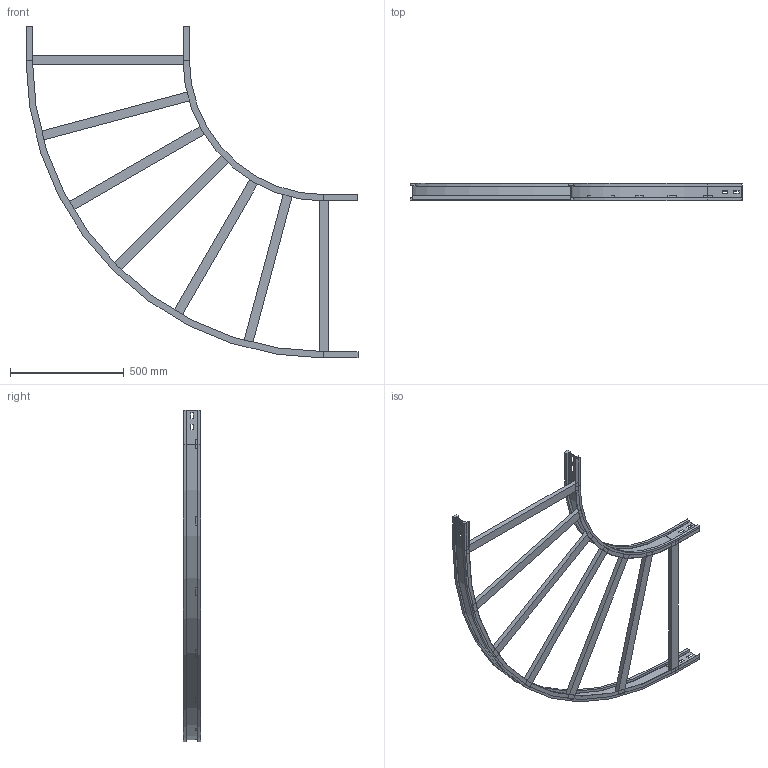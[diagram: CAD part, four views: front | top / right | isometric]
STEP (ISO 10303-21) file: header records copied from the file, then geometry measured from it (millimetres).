
FILE_DESCRIPTION (( 'STEP AP214' ), '1' );
FILE_NAME ('10S6C700.step', '2025-02-21T16:12:03', ( '' ), ( '' ), 'SwSTEP 2.0', 'SolidWorks 2023', '' );
FILE_SCHEMA (( 'AUTOMOTIVE_DESIGN' ));
Length unit declared in the file: millimetre
Products named in the file (4): LONGH.ESTERNO 90°_H75_R600+700; LONGH.INTERNO 90°_H75_R600; TRAVERSINO_700; 10S6C700
Assembly tree (9 placements, depth 2):
  10S6C700
    LONGH.INTERNO 90°_H75_R600
    LONGH.ESTERNO 90°_H75_R600+700
    TRAVERSINO_700  x7
Bounding box: 1459 x 75 x 1459 mm (x, y, z)
Volume: 5715558.8 mm3; surface area: 1486260.7 mm2
Topology: 9 solids, 9 shells, 150 faces, 348 edges, 216 vertices
Faces by surface type: plane 138, cylinder 12
Entity records: 3421 total; most frequent: CARTESIAN_POINT 570, ORIENTED_EDGE 552, DIRECTION 552, EDGE_CURVE 276, LINE 252, VECTOR 252, VERTEX_POINT 168, AXIS2_PLACEMENT_3D 150
